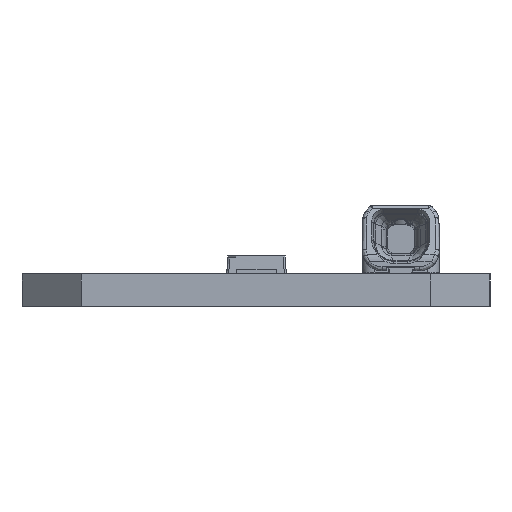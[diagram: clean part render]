
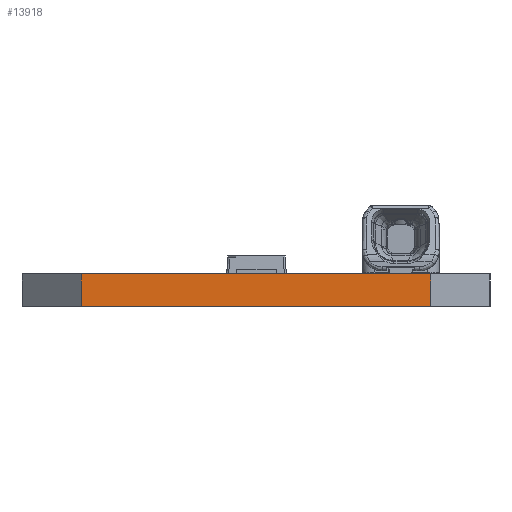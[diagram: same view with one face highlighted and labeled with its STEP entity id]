
A CAD part, left-side view. The second image highlights one B-rep face of the part: STEP entity #13918.
In plain terms, the highlighted planar face has unit normal (-1, 0, 0).
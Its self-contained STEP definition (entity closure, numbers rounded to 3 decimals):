
#531 = LINE ( 'NONE', #13189, #14264 ) ;
#783 = EDGE_LOOP ( 'NONE', ( #11052, #2275, #9432, #17137 ) ) ;
#2275 = ORIENTED_EDGE ( 'NONE', *, *, #2795, .F. ) ;
#2433 = FACE_OUTER_BOUND ( 'NONE', #783, .T. ) ;
#2717 = CARTESIAN_POINT ( 'NONE',  ( 7., 8., 0. ) ) ;
#2795 = EDGE_CURVE ( 'NONE', #10157, #13069, #16630, .T. ) ;
#3062 = CARTESIAN_POINT ( 'NONE',  ( 7., 8., -1.65 ) ) ;
#3466 = CARTESIAN_POINT ( 'NONE',  ( 7., 25.6, 0. ) ) ;
#4106 = PLANE ( 'NONE',  #8533 ) ;
#4350 = EDGE_CURVE ( 'NONE', #13069, #4817, #16822, .T. ) ;
#4628 = EDGE_CURVE ( 'NONE', #7606, #4817, #531, .T. ) ;
#4817 = VERTEX_POINT ( 'NONE', #3062 ) ;
#5436 = DIRECTION ( 'NONE',  ( 0., 0., 1. ) ) ;
#6561 = VECTOR ( 'NONE', #7355, 1000. ) ;
#7355 = DIRECTION ( 'NONE',  ( 0., 0., -1. ) ) ;
#7464 = VECTOR ( 'NONE', #15506, 1000. ) ;
#7606 = VERTEX_POINT ( 'NONE', #8493 ) ;
#8493 = CARTESIAN_POINT ( 'NONE',  ( 7., 25.6, -1.65 ) ) ;
#8533 = AXIS2_PLACEMENT_3D ( 'NONE', #10723, #13430, #5436 ) ;
#9432 = ORIENTED_EDGE ( 'NONE', *, *, #16487, .T. ) ;
#9555 = VECTOR ( 'NONE', #14106, 1000. ) ;
#10157 = VERTEX_POINT ( 'NONE', #16111 ) ;
#10723 = CARTESIAN_POINT ( 'NONE',  ( 7., 25.6, 0. ) ) ;
#11052 = ORIENTED_EDGE ( 'NONE', *, *, #4350, .F. ) ;
#11217 = CARTESIAN_POINT ( 'NONE',  ( 7., 8., 0. ) ) ;
#13069 = VERTEX_POINT ( 'NONE', #2717 ) ;
#13189 = CARTESIAN_POINT ( 'NONE',  ( 7., 25.6, -1.65 ) ) ;
#13430 = DIRECTION ( 'NONE',  ( -1., 0., 0. ) ) ;
#13918 = ADVANCED_FACE ( 'NONE', ( #2433 ), #4106, .T. ) ;
#14106 = DIRECTION ( 'NONE',  ( 0., -1., 0. ) ) ;
#14264 = VECTOR ( 'NONE', #14508, 1000. ) ;
#14508 = DIRECTION ( 'NONE',  ( 0., -1., 0. ) ) ;
#14542 = LINE ( 'NONE', #3466, #7464 ) ;
#15506 = DIRECTION ( 'NONE',  ( 0., 0., -1. ) ) ;
#16111 = CARTESIAN_POINT ( 'NONE',  ( 7., 25.6, 0. ) ) ;
#16487 = EDGE_CURVE ( 'NONE', #10157, #7606, #14542, .T. ) ;
#16630 = LINE ( 'NONE', #16734, #9555 ) ;
#16734 = CARTESIAN_POINT ( 'NONE',  ( 7., 17.361, 0. ) ) ;
#16822 = LINE ( 'NONE', #11217, #6561 ) ;
#17137 = ORIENTED_EDGE ( 'NONE', *, *, #4628, .T. ) ;
